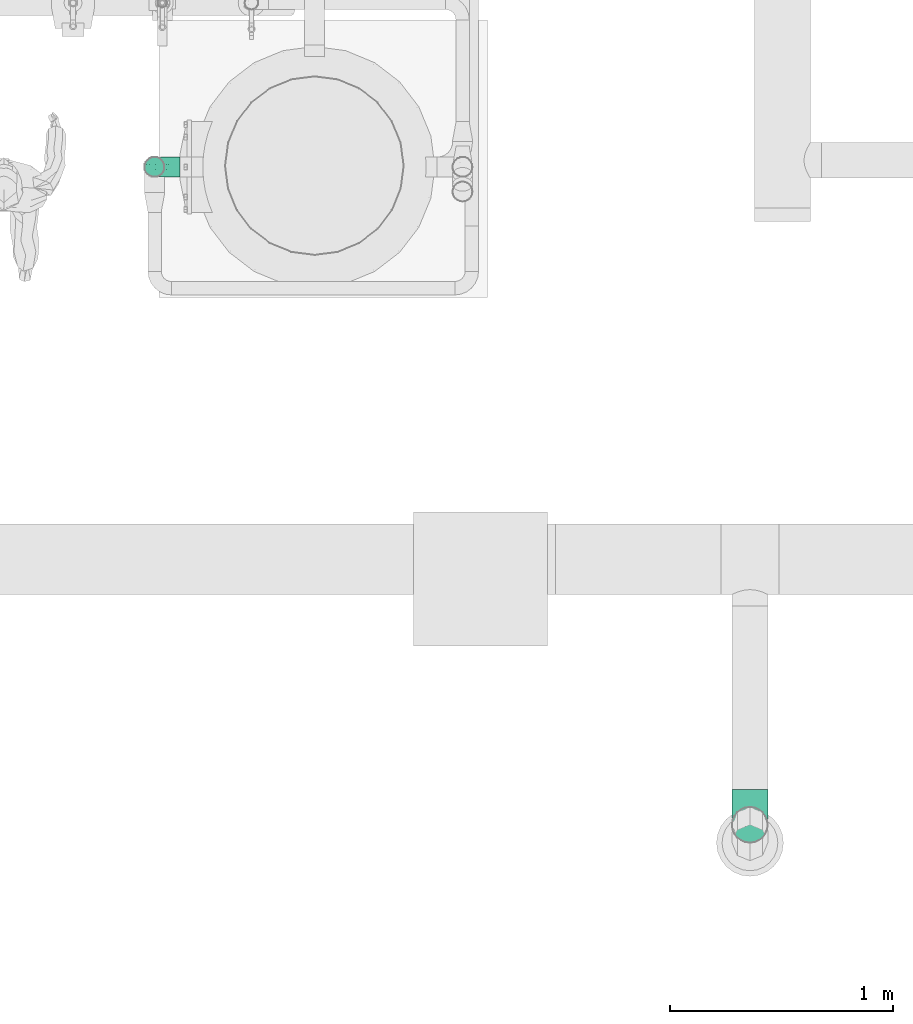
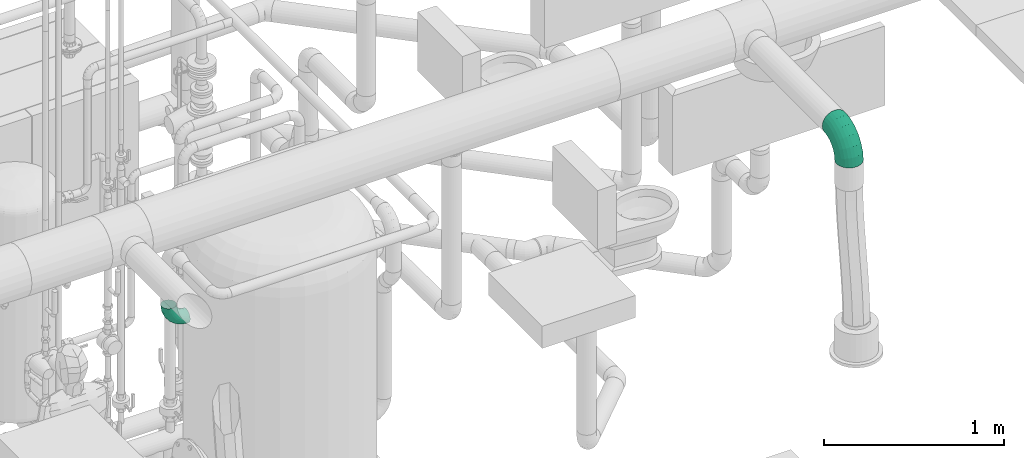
# One storey, part 90 of 374: 1 flow fitting, 1 flow segment.
"""IFC2X3 building model written with IfcOpenShell, lengths in metres."""

from ifc_helpers import new_model, si_unit, direction, origin, place, context, subcontext, project, spatial, open_shell, surface_model, source, transform, mapped, element, save


model = new_model("IFC2X3")

# Units and contexts
model_context = context("Model", 3, precision=1e-05, world=origin(), true_north=direction((-0.4480736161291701, 0.8939966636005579)))
body_context = subcontext(model_context, "Body", "Model", "MODEL_VIEW")
ifc_project = project(units=[si_unit("LENGTHUNIT", "METRE"), si_unit("AREAUNIT", "SQUARE_METRE"), si_unit("VOLUMEUNIT", "CUBIC_METRE"), si_unit("PLANEANGLEUNIT", "RADIAN"), si_unit("THERMODYNAMICTEMPERATUREUNIT", "KELVIN"), si_unit("MASSUNIT", "GRAM", prefix="KILO"), si_unit("TIMEUNIT", "SECOND")], contexts=[model_context])

# Site, building, storey
site_placement = place(None, origin())
site = spatial("IfcSite", under=ifc_project, at=site_placement, Name="Site 1", CompositionType="ELEMENT")
building_placement = place(site_placement, origin())
building = spatial("IfcBuilding", under=site, at=building_placement, Name="Undefined", CompositionType="ELEMENT")
storey_placement = place(building_placement, origin())
storey = spatial("IfcBuildingStorey", under=building, at=storey_placement, Name="Rez de chauss\x8ee", CompositionType="ELEMENT", Elevation=0.0)

# Flow fitting
shared_shape_1 = source(origin(), body_context, "Body", "SurfaceModel", [
    surface_model("IfcFaceBasedSurfaceModel", [(0.06265257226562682, -8.8817842e-16, 0.0), (0.062296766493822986, 0.02088115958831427, -7.105427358e-15), (0.0003558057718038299, 0.020881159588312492, 7.105427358e-15), (0.0, 0.0, 0.0), (-0.059474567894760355, 0.022956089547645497, -0.015896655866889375), (-0.06051773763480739, 0.002098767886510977, -0.01607928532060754), (-0.11311701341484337, 0.02696454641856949, -0.04660663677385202), (-0.11477645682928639, 0.006153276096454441, -0.04714207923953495), (-0.15691588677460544, 0.0326333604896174, -0.09003710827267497), (-0.15907851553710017, 0.01188721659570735, -0.09107150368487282), (-0.18788636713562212, 0.03957621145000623, -0.14322835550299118), (-0.1904048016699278, 0.01890983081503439, -0.14487384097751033), (-0.2039178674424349, 0.04731995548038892, -0.20255548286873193), (-0.20662048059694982, 0.026742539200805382, -0.20488255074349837), (0.061253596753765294, 0.04103889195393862, -0.0053597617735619), (0.0013989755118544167, 0.04103889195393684, -0.005359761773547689), (-0.05641614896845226, 0.04304393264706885, -0.02072097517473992), (-0.10825177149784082, 0.04691737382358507, -0.050396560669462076), (-0.15057538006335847, 0.05239524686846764, -0.09236417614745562), (-0.18050269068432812, 0.05910424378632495, -0.14376379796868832), (-0.19599420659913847, 0.06658715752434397, -0.20109262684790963), (0.05959415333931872, 0.05909948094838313, -0.01571402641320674), (0.003058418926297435, 0.05909948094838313, -0.01571402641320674), (-0.05155090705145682, 0.06099334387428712, -0.030223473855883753), (-0.10051228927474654, 0.06465200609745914, -0.058253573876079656), (-0.1404890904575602, 0.0698261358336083, -0.09789412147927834), (-0.16875695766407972, 0.0761631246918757, -0.14644367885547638), (-0.18338948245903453, 0.08323111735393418, -0.2005936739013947), (0.057431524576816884, 0.07383212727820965, -0.030357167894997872), (0.005221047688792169, 0.07383212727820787, -0.03035716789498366), (-0.0452104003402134, 0.07558110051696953, -0.04375657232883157), (-0.09042599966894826, 0.07895985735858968, -0.06964223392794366), (-0.12734438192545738, 0.08373814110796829, -0.10625008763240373), (-0.15344962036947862, 0.08959031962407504, -0.15108536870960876), (-0.16696268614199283, 0.0961175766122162, -0.20109262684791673), (0.054913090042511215, 0.0842328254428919, -0.048291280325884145), (0.007739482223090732, 0.08423282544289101, -0.04829128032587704), (-0.037826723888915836, 0.08581307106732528, -0.06039801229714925), (-0.07868026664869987, 0.08886587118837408, -0.08378642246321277), (-0.11203704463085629, 0.09318318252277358, -0.11686262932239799), (-0.13562384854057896, 0.09847078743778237, -0.1573725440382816), (-0.14783327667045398, 0.10436834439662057, -0.20255548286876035), (0.05221047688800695, 0.0895927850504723, -0.06829418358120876), (0.010442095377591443, 0.08959278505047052, -0.06829418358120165), (-0.029903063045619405, 0.09099196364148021, -0.07901370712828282), (-0.06607554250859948, 0.09369496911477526, -0.0997222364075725), (-0.0956102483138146, 0.0975175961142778, -0.12900851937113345), (-0.11649443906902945, 0.10219933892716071, -0.16487674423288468), (-0.12730489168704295, 0.1074211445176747, -0.2048825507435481), (0.04950786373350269, 0.08954673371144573, -0.08900271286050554), (0.013144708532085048, 0.08954673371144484, -0.08900271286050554), (-0.02197940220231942, 0.09076484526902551, -0.09833502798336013), (-0.05347081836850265, 0.09311805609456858, -0.11636367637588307), (-0.0791834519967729, 0.09644599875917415, -0.14186003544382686), (-0.09736502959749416, 0.10052187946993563, -0.17308657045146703), (-0.10677650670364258, 0.1050679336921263, -0.20791524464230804), (0.04698942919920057, 0.08409780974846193, -0.10900561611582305), (0.015663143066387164, 0.08409780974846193, -0.10900561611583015), (-0.014595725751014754, 0.08514719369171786, -0.11704525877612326), (-0.0417250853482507, 0.0871744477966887, -0.13257665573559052), (-0.06387611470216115, 0.09004141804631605, -0.15454136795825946), (-0.07953925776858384, 0.09355272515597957, -0.1814425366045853), (-0.08764709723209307, 0.09746907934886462, -0.21144689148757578), (0.04482680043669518, 0.0736173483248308, -0.12693972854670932), (0.017825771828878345, 0.0736173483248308, -0.12693972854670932), (-0.008255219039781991, 0.07452184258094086, -0.13386932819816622), (-0.03163879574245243, 0.0762691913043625, -0.14725628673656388), (-0.050731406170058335, 0.07874031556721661, -0.1661883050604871), (-0.06423192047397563, 0.08176681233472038, -0.18937519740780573), (-0.07122030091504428, 0.08514243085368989, -0.21523681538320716), (0.04316735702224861, 0.058819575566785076, -0.14158287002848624), (0.019485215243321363, 0.058819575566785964, -0.14158287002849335), (-0.0033899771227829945, 0.05961289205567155, -0.14766070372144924), (-0.02389931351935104, 0.06114546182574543, -0.15940217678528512), (-0.04064511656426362, 0.06331284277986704, -0.17600712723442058), (-0.052486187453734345, 0.06596733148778, -0.19634395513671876), (-0.05861557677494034, 0.06892802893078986, -0.2190267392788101), (0.04212418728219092, 0.040712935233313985, -0.15193713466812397), (0.020528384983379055, 0.040712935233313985, -0.15193713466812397), (-0.0003315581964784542, 0.041436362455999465, -0.15747952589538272), (-0.019034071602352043, 0.04283391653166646, -0.16818660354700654), (-0.03430460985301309, 0.04481035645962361, -0.1833286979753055), (-0.04510251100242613, 0.047230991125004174, -0.20187390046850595), (-0.05069191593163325, 0.04993085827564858, -0.22255838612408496), (0.04176838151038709, 0.02053136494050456, -0.15729689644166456), (0.020884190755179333, 0.02053136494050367, -0.15729689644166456), (0.0007116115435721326, 0.021230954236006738, -0.16265665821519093), (-0.017374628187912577, 0.022582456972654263, -0.17301092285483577), (-0.03214198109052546, 0.024493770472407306, -0.1876540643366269), (-0.042584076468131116, 0.026834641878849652, -0.20558817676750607), (-0.04798930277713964, 0.02944554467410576, -0.22559108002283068), (0.04212418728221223, -0.000349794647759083, -0.15729689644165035), (0.020528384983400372, -0.000349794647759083, -0.15729689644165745), (-0.0003315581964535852, 0.00037363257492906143, -0.1628392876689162), (-0.019034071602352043, 0.0017711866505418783, -0.17354636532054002), (-0.03430460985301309, 0.0037476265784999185, -0.18868845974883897), (-0.04510251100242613, 0.00616826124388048, -0.20723366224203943), (-0.05069191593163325, 0.008868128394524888, -0.22791814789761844), (0.04316735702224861, -0.020507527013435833, -0.15193713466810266), (0.019485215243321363, -0.020507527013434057, -0.15193713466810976), (-0.0033899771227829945, -0.019714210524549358, -0.15801496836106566), (-0.02389931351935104, -0.01818164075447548, -0.16975644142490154), (-0.04064511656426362, -0.01601425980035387, -0.186361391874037), (-0.052486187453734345, -0.013359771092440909, -0.20669821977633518), (-0.05861557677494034, -0.010399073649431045, -0.22938100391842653), (0.04482680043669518, -0.03856811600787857, -0.1415828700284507), (0.017825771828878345, -0.03856811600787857, -0.1415828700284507), (-0.008255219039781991, -0.03766362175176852, -0.1485124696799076), (-0.03163879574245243, -0.03591627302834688, -0.16189942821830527), (-0.050731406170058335, -0.03344514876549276, -0.1808314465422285), (-0.06423192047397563, -0.030418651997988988, -0.20401833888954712), (-0.07122030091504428, -0.027043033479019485, -0.22987995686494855), (0.04698942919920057, -0.05330076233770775, -0.12693972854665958), (0.015663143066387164, -0.05330076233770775, -0.12693972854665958), (-0.014595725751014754, -0.05225137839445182, -0.1349793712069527), (-0.0417250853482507, -0.05022412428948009, -0.15051076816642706), (-0.06387611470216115, -0.047357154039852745, -0.172475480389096), (-0.07953925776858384, -0.043845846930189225, -0.19937664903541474), (-0.08764709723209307, -0.03992949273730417, -0.2293810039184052), (0.04950786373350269, -0.06370146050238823, -0.10900561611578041), (0.013144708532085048, -0.06370146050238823, -0.10900561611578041), (-0.02197940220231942, -0.06248334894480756, -0.11833793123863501), (-0.05347081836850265, -0.06013013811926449, -0.13636657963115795), (-0.0791834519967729, -0.05680219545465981, -0.16186293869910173), (-0.09736502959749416, -0.05272631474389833, -0.1930894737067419), (-0.10677650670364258, -0.04818026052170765, -0.2279181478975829), (0.05221047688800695, -0.06906142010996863, -0.08900271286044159), (0.010442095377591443, -0.06906142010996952, -0.08900271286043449), (-0.029903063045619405, -0.06766224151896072, -0.09972223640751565), (-0.06607554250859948, -0.06495923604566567, -0.12043076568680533), (-0.0956102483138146, -0.06113660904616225, -0.14971704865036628), (-0.11649443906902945, -0.05645486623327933, -0.1855852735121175), (-0.12730489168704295, -0.05123306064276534, -0.22559108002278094), (0.054913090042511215, -0.06901536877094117, -0.06829418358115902), (0.007739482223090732, -0.06901536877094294, -0.06829418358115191), (-0.037826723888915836, -0.06743512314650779, -0.08040091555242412), (-0.07868026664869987, -0.06438232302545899, -0.10378932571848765), (-0.11203704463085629, -0.06006501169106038, -0.13686553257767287), (-0.13562384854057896, -0.0547774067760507, -0.17737544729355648), (-0.14783327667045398, -0.04887984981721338, -0.22255838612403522), (0.057431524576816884, -0.06356644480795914, -0.0482912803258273), (0.005221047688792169, -0.06356644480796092, -0.04829128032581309), (-0.0452104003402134, -0.061817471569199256, -0.0616906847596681), (-0.09042599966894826, -0.05843871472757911, -0.0875763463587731), (-0.12734438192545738, -0.05366043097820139, -0.12418420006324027), (-0.15344962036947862, -0.04780825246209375, -0.1690194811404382), (-0.16696268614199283, -0.041280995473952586, -0.21902673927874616), (0.05959415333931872, -0.05308598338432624, -0.030357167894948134), (0.003058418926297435, -0.05308598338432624, -0.030357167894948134), (-0.05155090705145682, -0.05119212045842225, -0.04486661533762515), (-0.10051228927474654, -0.04753345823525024, -0.07289671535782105), (-0.1404890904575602, -0.04235932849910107, -0.11253726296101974), (-0.16875695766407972, -0.03602233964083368, -0.16108682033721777), (-0.18338948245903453, -0.02895434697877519, -0.2152368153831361), (0.061253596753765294, -0.03828821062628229, -0.015714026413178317), (0.0013989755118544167, -0.03828821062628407, -0.015714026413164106), (-0.05641614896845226, -0.03628316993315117, -0.031075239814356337), (-0.10825177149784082, -0.03240972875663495, -0.06075082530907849), (-0.15057538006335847, -0.026931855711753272, -0.10271844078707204), (-0.18050269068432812, -0.02022285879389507, -0.15411806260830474), (-0.19599420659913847, -0.012739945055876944, -0.21144689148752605), (0.062296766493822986, -0.020181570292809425, -0.005359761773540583), (0.0003558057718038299, -0.020181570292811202, -0.0053597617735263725), (-0.059474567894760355, -0.018106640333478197, -0.021256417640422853), (-0.11311701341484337, -0.014098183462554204, -0.051966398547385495), (-0.15691588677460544, -0.00842936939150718, -0.09539687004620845), (-0.18788636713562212, -0.0014865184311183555, -0.14858811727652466), (-0.2039178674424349, 0.006257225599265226, -0.2079152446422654)], [open_shell([[[0, 1, 2, 3]], [[3, 2, 4, 5]], [[5, 4, 6, 7]], [[7, 6, 8, 9]], [[9, 8, 10, 11]], [[11, 10, 12, 13]], [[1, 14, 15, 2]], [[2, 15, 16, 4]], [[4, 16, 17, 6]], [[6, 17, 18, 8]], [[8, 18, 19, 10]], [[10, 19, 20, 12]], [[14, 21, 22, 15]], [[15, 22, 23, 16]], [[16, 23, 24, 17]], [[17, 24, 25, 18]], [[18, 25, 26, 19]], [[19, 26, 27, 20]], [[21, 28, 29, 22]], [[22, 29, 30, 23]], [[23, 30, 31, 24]], [[24, 31, 32, 25]], [[25, 32, 33, 26]], [[26, 33, 34, 27]], [[28, 35, 36, 29]], [[29, 36, 37, 30]], [[30, 37, 38, 31]], [[31, 38, 39, 32]], [[32, 39, 40, 33]], [[33, 40, 41, 34]], [[35, 42, 43, 36]], [[36, 43, 44, 37]], [[37, 44, 45, 38]], [[38, 45, 46, 39]], [[39, 46, 47, 40]], [[40, 47, 48, 41]], [[42, 49, 50, 43]], [[43, 50, 51, 44]], [[44, 51, 52, 45]], [[45, 52, 53, 46]], [[46, 53, 54, 47]], [[47, 54, 55, 48]], [[49, 56, 57, 50]], [[50, 57, 58, 51]], [[51, 58, 59, 52]], [[52, 59, 60, 53]], [[53, 60, 61, 54]], [[54, 61, 62, 55]], [[56, 63, 64, 57]], [[57, 64, 65, 58]], [[58, 65, 66, 59]], [[59, 66, 67, 60]], [[60, 67, 68, 61]], [[61, 68, 69, 62]], [[63, 70, 71, 64]], [[64, 71, 72, 65]], [[65, 72, 73, 66]], [[66, 73, 74, 67]], [[67, 74, 75, 68]], [[68, 75, 76, 69]], [[70, 77, 78, 71]], [[71, 78, 79, 72]], [[72, 79, 80, 73]], [[73, 80, 81, 74]], [[74, 81, 82, 75]], [[75, 82, 83, 76]], [[77, 84, 85, 78]], [[78, 85, 86, 79]], [[79, 86, 87, 80]], [[80, 87, 88, 81]], [[81, 88, 89, 82]], [[82, 89, 90, 83]], [[84, 91, 92, 85]], [[85, 92, 93, 86]], [[86, 93, 94, 87]], [[87, 94, 95, 88]], [[88, 95, 96, 89]], [[89, 96, 97, 90]], [[91, 98, 99, 92]], [[92, 99, 100, 93]], [[93, 100, 101, 94]], [[94, 101, 102, 95]], [[95, 102, 103, 96]], [[96, 103, 104, 97]], [[98, 105, 106, 99]], [[99, 106, 107, 100]], [[100, 107, 108, 101]], [[101, 108, 109, 102]], [[102, 109, 110, 103]], [[103, 110, 111, 104]], [[105, 112, 113, 106]], [[106, 113, 114, 107]], [[107, 114, 115, 108]], [[108, 115, 116, 109]], [[109, 116, 117, 110]], [[110, 117, 118, 111]], [[112, 119, 120, 113]], [[113, 120, 121, 114]], [[114, 121, 122, 115]], [[115, 122, 123, 116]], [[116, 123, 124, 117]], [[117, 124, 125, 118]], [[119, 126, 127, 120]], [[120, 127, 128, 121]], [[121, 128, 129, 122]], [[122, 129, 130, 123]], [[123, 130, 131, 124]], [[124, 131, 132, 125]], [[126, 133, 134, 127]], [[127, 134, 135, 128]], [[128, 135, 136, 129]], [[129, 136, 137, 130]], [[130, 137, 138, 131]], [[131, 138, 139, 132]], [[133, 140, 141, 134]], [[134, 141, 142, 135]], [[135, 142, 143, 136]], [[136, 143, 144, 137]], [[137, 144, 145, 138]], [[138, 145, 146, 139]], [[140, 147, 148, 141]], [[141, 148, 149, 142]], [[142, 149, 150, 143]], [[143, 150, 151, 144]], [[144, 151, 152, 145]], [[145, 152, 153, 146]], [[147, 154, 155, 148]], [[148, 155, 156, 149]], [[149, 156, 157, 150]], [[150, 157, 158, 151]], [[151, 158, 159, 152]], [[152, 159, 160, 153]], [[154, 161, 162, 155]], [[155, 162, 163, 156]], [[156, 163, 164, 157]], [[157, 164, 165, 158]], [[158, 165, 166, 159]], [[159, 166, 167, 160]], [[161, 0, 3, 162]], [[162, 3, 5, 163]], [[163, 5, 7, 164]], [[164, 7, 9, 165]], [[165, 9, 11, 166]], [[166, 11, 13, 167]]])]),
])
flow_fitting_placement = place(storey_placement, origin())
element("IfcFlowFitting", 1, at=flow_fitting_placement, inside=storey, Name="Coude", ObjectType="Coude", context=body_context, shape_type="MappedRepresentation", body=[
    mapped(shared_shape_1, transform((56.290003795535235, 6.963176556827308, 3.7021165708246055), x_axis=(9.56658874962e-13, -0.13052619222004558, -0.9914448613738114), y_axis=(0.9915887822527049, 0.12832103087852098, -0.01689378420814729), z_axis=(0.12942830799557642, -0.983105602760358, 0.1294283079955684))),
])

# Flow segment
shared_shape_2 = source(origin(), body_context, "Body", "SurfaceModel", [
    surface_model("IfcFaceBasedSurfaceModel", [(0.041363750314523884, -1.776356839e-15, 0.0), (0.04116605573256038, 0.011602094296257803, 0.0), (0.000197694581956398, 0.011602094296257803, 8.8817842e-16), (0.0, 0.0, 0.0), (-0.03937470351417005, 0.01297447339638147, -0.010514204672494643), (-0.039954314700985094, 0.0013856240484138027, -0.010615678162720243), (-0.07485434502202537, 0.015625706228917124, -0.03082608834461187), (-0.07577637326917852, 0.004062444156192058, -0.03112359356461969), (-0.10382335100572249, 0.01937511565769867, -0.059551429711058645), (-0.1050249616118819, 0.007848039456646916, -0.06012616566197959), (-0.12430753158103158, 0.023967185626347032, -0.09473264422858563), (-0.1257068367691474, 0.012484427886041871, -0.09564691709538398), (-0.1349109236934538, 0.029088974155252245, -0.13397219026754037), (-0.136412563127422, 0.017655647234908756, -0.13526516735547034), (0.04058644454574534, 0.02280223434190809, -0.0029780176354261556), (0.0007773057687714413, 0.022802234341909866, -0.002978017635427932), (-0.037675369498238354, 0.024135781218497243, -0.013194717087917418), (-0.07215109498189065, 0.026711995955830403, -0.032931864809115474), (-0.10030040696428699, 0.030355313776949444, -0.06084440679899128), (-0.12020497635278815, 0.03481744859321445, -0.09503014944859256), (-0.1305083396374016, 0.039794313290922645, -0.13315939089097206), (0.03966441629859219, 0.03283714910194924, -0.00873110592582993), (0.0016993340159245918, 0.03283714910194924, -0.00873110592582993), (-0.034972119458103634, 0.034108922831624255, -0.018474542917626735), (-0.06785084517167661, 0.03656580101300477, -0.03729741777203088), (-0.09469621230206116, 0.04004035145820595, -0.06391698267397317), (-0.11367875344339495, 0.044295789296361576, -0.09651915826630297), (-0.12350483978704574, 0.04904211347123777, -0.13288216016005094), (0.03846280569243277, 0.041022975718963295, -0.016867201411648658), (0.0029009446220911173, 0.04102297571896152, -0.016867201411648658), (-0.031449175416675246, 0.04221424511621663, -0.025993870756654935), (-0.06224665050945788, 0.044515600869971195, -0.04362524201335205), (-0.08739268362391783, 0.047770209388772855, -0.06855976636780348), (-0.10517361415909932, 0.051756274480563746, -0.09909819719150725), (-0.11437770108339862, 0.056202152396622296, -0.13315939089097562), (0.03706350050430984, 0.04680186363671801, -0.026831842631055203), (0.004300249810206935, 0.046801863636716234, -0.02683184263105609), (-0.027346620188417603, 0.047899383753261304, -0.03524027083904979), (-0.055720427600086, 0.050019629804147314, -0.051484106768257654), (-0.07888754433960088, 0.053018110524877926, -0.07445635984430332), (-0.09526916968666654, 0.056690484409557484, -0.10259150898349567), (-0.1037489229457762, 0.06078648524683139, -0.13397219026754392), (0.03556186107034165, 0.04977999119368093, -0.0379459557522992), (0.005801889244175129, 0.04977999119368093, -0.03794595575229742), (-0.022944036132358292, 0.05077690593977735, -0.045583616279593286), (-0.04871692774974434, 0.052702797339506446, -0.06033844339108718), (-0.06976040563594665, 0.05542641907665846, -0.08120492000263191), (-0.08464039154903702, 0.05876216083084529, -0.10676103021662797), (-0.09234283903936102, 0.06248269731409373, -0.13526516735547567), (0.03406022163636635, 0.04975440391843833, -0.049452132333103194), (0.007303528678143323, 0.04975440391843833, -0.04945213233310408), (-0.018541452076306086, 0.0506507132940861, -0.05631902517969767), (-0.04171342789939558, 0.05238225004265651, -0.06958484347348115), (-0.060633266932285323, 0.05483101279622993, -0.0883455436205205), (-0.0740116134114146, 0.057830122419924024, -0.11132261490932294), (-0.08093675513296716, 0.06117519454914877, -0.13695020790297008), (0.03266091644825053, 0.04672684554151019, -0.06056624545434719), (0.008702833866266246, 0.04672684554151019, -0.0605662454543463), (-0.014438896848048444, 0.04752940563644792, -0.06671489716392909), (-0.0351872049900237, 0.04907983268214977, -0.07859318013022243), (-0.05212812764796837, 0.051272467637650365, -0.09539160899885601), (-0.06410716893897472, 0.053957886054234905, -0.1159653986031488), (-0.07030797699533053, 0.05695308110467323, -0.13891247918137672), (0.03145930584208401, 0.04090363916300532, -0.07053088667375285), (0.009904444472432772, 0.0409036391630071, -0.07053088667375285), (-0.010915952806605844, 0.041625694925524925, -0.07606277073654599), (-0.02958301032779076, 0.0430205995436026, -0.08674955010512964), (-0.04482459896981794, 0.044993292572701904, -0.10186293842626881), (-0.055602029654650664, 0.04740933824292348, -0.12037298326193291), (-0.0611808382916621, 0.05010408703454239, -0.14101825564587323), (0.030537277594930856, 0.032681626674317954, -0.0786669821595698), (0.010826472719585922, 0.03268162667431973, -0.07866698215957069), (-0.00821270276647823, 0.033341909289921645, -0.08372560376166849), (-0.02528276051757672, 0.03461747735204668, -0.09349811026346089), (-0.039220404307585, 0.03642140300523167, -0.10731852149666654), (-0.04907580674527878, 0.03863075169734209, -0.12424499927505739), (-0.054177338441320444, 0.041094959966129, -0.14312403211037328), (0.029957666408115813, 0.022621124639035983, -0.0844200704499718), (0.011406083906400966, 0.022621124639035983, -0.08442007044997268), (-0.006513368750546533, 0.023242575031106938, -0.08918118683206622), (-0.022579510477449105, 0.024443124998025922, -0.09837895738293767), (-0.03569746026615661, 0.026140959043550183, -0.11138656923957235), (-0.044973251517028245, 0.028220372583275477, -0.12731757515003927), (-0.049774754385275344, 0.030539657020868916, -0.14508630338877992), (0.029759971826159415, 0.011407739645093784, -0.08739808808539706), (0.011603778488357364, 0.011407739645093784, -0.08739808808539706), (-0.0059337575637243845, 0.012015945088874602, -0.09205773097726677), (-0.021657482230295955, 0.013190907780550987, -0.1010594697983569), (-0.03449584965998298, 0.01485255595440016, -0.11378985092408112), (-0.043573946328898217, 0.016887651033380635, -0.12938131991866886), (-0.048273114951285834, 0.019157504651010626, -0.14677134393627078), (0.029957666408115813, -0.00019435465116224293, -0.08739808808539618), (0.011406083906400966, -0.0001943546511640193, -0.08739808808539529), (-0.006513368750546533, 0.00042709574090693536, -0.09215920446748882), (-0.022579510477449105, 0.0016276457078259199, -0.10135697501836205), (-0.03569746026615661, 0.00332547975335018, -0.11436458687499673), (-0.044973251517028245, 0.0054048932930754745, -0.13029559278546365), (-0.049774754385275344, 0.007724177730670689, -0.1480643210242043), (0.030537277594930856, -0.011394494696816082, -0.08442007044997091), (0.010826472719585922, -0.011394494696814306, -0.08442007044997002), (-0.00821270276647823, -0.010734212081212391, -0.0894786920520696), (-0.02528276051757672, -0.009458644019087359, -0.09925119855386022), (-0.039220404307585, -0.007654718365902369, -0.11307160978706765), (-0.04907580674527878, -0.005445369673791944, -0.12999808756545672), (-0.054177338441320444, -0.0029811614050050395, -0.1488771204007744), (0.03145930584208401, -0.021429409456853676, -0.07866698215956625), (0.009904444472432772, -0.021429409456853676, -0.07866698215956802), (-0.010915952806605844, -0.02070735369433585, -0.08419886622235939), (-0.02958301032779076, -0.019312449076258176, -0.09488564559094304), (-0.04482459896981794, -0.017339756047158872, -0.10999903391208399), (-0.055602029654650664, -0.014923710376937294, -0.1285090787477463), (-0.0611808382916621, -0.012228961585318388, -0.1491543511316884), (0.03266091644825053, -0.029615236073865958, -0.0705308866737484), (0.008702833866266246, -0.029615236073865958, -0.07053088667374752), (-0.014438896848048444, -0.02881267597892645, -0.0766795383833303), (-0.0351872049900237, -0.027262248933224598, -0.08855782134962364), (-0.05212812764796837, -0.025069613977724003, -0.105356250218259), (-0.06410716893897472, -0.022384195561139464, -0.1259300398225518), (-0.07030797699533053, -0.019389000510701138, -0.14887712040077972), (0.03406022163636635, -0.03539412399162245, -0.06056624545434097), (0.007303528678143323, -0.03539412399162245, -0.06056624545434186), (-0.018541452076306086, -0.034497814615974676, -0.06743313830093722), (-0.04171342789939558, -0.03276627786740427, -0.08069895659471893), (-0.060633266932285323, -0.03031751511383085, -0.09945965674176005), (-0.0740116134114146, -0.027318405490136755, -0.12243672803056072), (-0.08093675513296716, -0.023973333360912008, -0.14806432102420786), (0.03556186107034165, -0.038372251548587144, -0.04945213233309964), (0.005801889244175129, -0.038372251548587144, -0.049452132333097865), (-0.022944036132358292, -0.03737533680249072, -0.05708979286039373), (-0.04871692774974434, -0.035449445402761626, -0.0718446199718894), (-0.06976040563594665, -0.03272582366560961, -0.09271109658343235), (-0.08464039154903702, -0.029390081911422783, -0.11826720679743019), (-0.09234283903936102, -0.025669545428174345, -0.1467713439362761), (0.03706350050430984, -0.03834666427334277, -0.03794595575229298), (0.004300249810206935, -0.038346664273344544, -0.03794595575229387), (-0.027346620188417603, -0.037249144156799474, -0.04635438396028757), (-0.055720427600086, -0.035128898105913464, -0.06259821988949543), (-0.07888754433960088, -0.03213041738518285, -0.0855704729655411), (-0.09526916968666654, -0.028458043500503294, -0.11370562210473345), (-0.1037489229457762, -0.02436204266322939, -0.1450863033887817), (0.03846280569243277, -0.03531910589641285, -0.026831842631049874), (0.0029009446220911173, -0.03531910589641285, -0.02683184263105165), (-0.031449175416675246, -0.03412783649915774, -0.03595851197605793), (-0.06224665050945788, -0.031826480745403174, -0.05358988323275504), (-0.08739268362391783, -0.028571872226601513, -0.07852440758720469), (-0.10517361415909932, -0.024585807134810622, -0.10906283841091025), (-0.11437770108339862, -0.020139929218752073, -0.1431240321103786), (0.03966441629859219, -0.029495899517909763, -0.01686720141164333), (0.0016993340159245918, -0.02949589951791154, -0.016867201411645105), (-0.034972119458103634, -0.02822412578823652, -0.02661063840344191), (-0.06785084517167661, -0.025767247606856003, -0.04543351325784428), (-0.09469621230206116, -0.02229269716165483, -0.07205307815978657), (-0.11367875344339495, -0.0180372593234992, -0.10465525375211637), (-0.12350483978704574, -0.013290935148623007, -0.14101825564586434), (0.04058644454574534, -0.021273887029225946, -0.008731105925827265), (0.0007773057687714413, -0.02127388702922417, -0.008731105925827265), (-0.037675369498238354, -0.019940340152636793, -0.018947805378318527), (-0.07215109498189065, -0.017364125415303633, -0.038684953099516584), (-0.10030040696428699, -0.013720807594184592, -0.06659749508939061), (-0.12020497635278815, -0.009258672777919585, -0.1007832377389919), (-0.1305083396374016, -0.004281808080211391, -0.1389124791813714), (0.04116605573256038, -0.011213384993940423, -0.0029780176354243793), (0.000197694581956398, -0.0112133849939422, -0.002978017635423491), (-0.03937470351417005, -0.009841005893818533, -0.013492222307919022), (-0.07485434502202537, -0.007189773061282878, -0.03380410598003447), (-0.10382335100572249, -0.003440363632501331, -0.06252944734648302), (-0.12430753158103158, 0.0011517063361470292, -0.09771066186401), (-0.1349109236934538, 0.006273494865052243, -0.13695020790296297)], [open_shell([[[0, 1, 2, 3]], [[3, 2, 4, 5]], [[5, 4, 6, 7]], [[7, 6, 8, 9]], [[9, 8, 10, 11]], [[11, 10, 12, 13]], [[1, 14, 15, 2]], [[2, 15, 16, 4]], [[4, 16, 17, 6]], [[6, 17, 18, 8]], [[8, 18, 19, 10]], [[10, 19, 20, 12]], [[14, 21, 22, 15]], [[15, 22, 23, 16]], [[16, 23, 24, 17]], [[17, 24, 25, 18]], [[18, 25, 26, 19]], [[19, 26, 27, 20]], [[21, 28, 29, 22]], [[22, 29, 30, 23]], [[23, 30, 31, 24]], [[24, 31, 32, 25]], [[25, 32, 33, 26]], [[26, 33, 34, 27]], [[28, 35, 36, 29]], [[29, 36, 37, 30]], [[30, 37, 38, 31]], [[31, 38, 39, 32]], [[32, 39, 40, 33]], [[33, 40, 41, 34]], [[35, 42, 43, 36]], [[36, 43, 44, 37]], [[37, 44, 45, 38]], [[38, 45, 46, 39]], [[39, 46, 47, 40]], [[40, 47, 48, 41]], [[42, 49, 50, 43]], [[43, 50, 51, 44]], [[44, 51, 52, 45]], [[45, 52, 53, 46]], [[46, 53, 54, 47]], [[47, 54, 55, 48]], [[49, 56, 57, 50]], [[50, 57, 58, 51]], [[51, 58, 59, 52]], [[52, 59, 60, 53]], [[53, 60, 61, 54]], [[54, 61, 62, 55]], [[56, 63, 64, 57]], [[57, 64, 65, 58]], [[58, 65, 66, 59]], [[59, 66, 67, 60]], [[60, 67, 68, 61]], [[61, 68, 69, 62]], [[63, 70, 71, 64]], [[64, 71, 72, 65]], [[65, 72, 73, 66]], [[66, 73, 74, 67]], [[67, 74, 75, 68]], [[68, 75, 76, 69]], [[70, 77, 78, 71]], [[71, 78, 79, 72]], [[72, 79, 80, 73]], [[73, 80, 81, 74]], [[74, 81, 82, 75]], [[75, 82, 83, 76]], [[77, 84, 85, 78]], [[78, 85, 86, 79]], [[79, 86, 87, 80]], [[80, 87, 88, 81]], [[81, 88, 89, 82]], [[82, 89, 90, 83]], [[84, 91, 92, 85]], [[85, 92, 93, 86]], [[86, 93, 94, 87]], [[87, 94, 95, 88]], [[88, 95, 96, 89]], [[89, 96, 97, 90]], [[91, 98, 99, 92]], [[92, 99, 100, 93]], [[93, 100, 101, 94]], [[94, 101, 102, 95]], [[95, 102, 103, 96]], [[96, 103, 104, 97]], [[98, 105, 106, 99]], [[99, 106, 107, 100]], [[100, 107, 108, 101]], [[101, 108, 109, 102]], [[102, 109, 110, 103]], [[103, 110, 111, 104]], [[105, 112, 113, 106]], [[106, 113, 114, 107]], [[107, 114, 115, 108]], [[108, 115, 116, 109]], [[109, 116, 117, 110]], [[110, 117, 118, 111]], [[112, 119, 120, 113]], [[113, 120, 121, 114]], [[114, 121, 122, 115]], [[115, 122, 123, 116]], [[116, 123, 124, 117]], [[117, 124, 125, 118]], [[119, 126, 127, 120]], [[120, 127, 128, 121]], [[121, 128, 129, 122]], [[122, 129, 130, 123]], [[123, 130, 131, 124]], [[124, 131, 132, 125]], [[126, 133, 134, 127]], [[127, 134, 135, 128]], [[128, 135, 136, 129]], [[129, 136, 137, 130]], [[130, 137, 138, 131]], [[131, 138, 139, 132]], [[133, 140, 141, 134]], [[134, 141, 142, 135]], [[135, 142, 143, 136]], [[136, 143, 144, 137]], [[137, 144, 145, 138]], [[138, 145, 146, 139]], [[140, 147, 148, 141]], [[141, 148, 149, 142]], [[142, 149, 150, 143]], [[143, 150, 151, 144]], [[144, 151, 152, 145]], [[145, 152, 153, 146]], [[147, 154, 155, 148]], [[148, 155, 156, 149]], [[149, 156, 157, 150]], [[150, 157, 158, 151]], [[151, 158, 159, 152]], [[152, 159, 160, 153]], [[154, 161, 162, 155]], [[155, 162, 163, 156]], [[156, 163, 164, 157]], [[157, 164, 165, 158]], [[158, 165, 166, 159]], [[159, 166, 167, 160]], [[161, 0, 3, 162]], [[162, 3, 5, 163]], [[163, 5, 7, 164]], [[164, 7, 9, 165]], [[165, 9, 11, 166]], [[166, 11, 13, 167]]])]),
])
flow_segment_placement = place(storey_placement, origin())
element("IfcFlowSegment", 2, at=flow_segment_placement, inside=storey, Name="Tube coudé", ObjectType="Tube coudé", context=body_context, shape_type="MappedRepresentation", body=[
    mapped(shared_shape_2, transform((53.69582068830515, 9.982315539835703, 1.6527334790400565), x_axis=(0.9914448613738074, 0.0, -0.13052619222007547), y_axis=(0.016893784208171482, -0.9915887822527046, 0.12832103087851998), z_axis=(-0.12942830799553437, -0.12942830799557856, -0.9831056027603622))),
])

save(model, "model.ifc")
